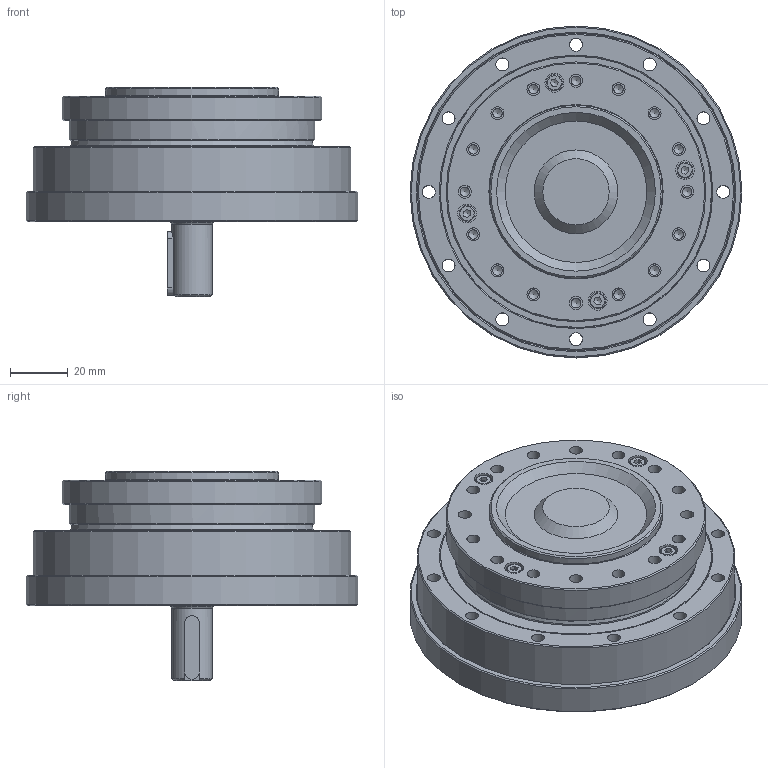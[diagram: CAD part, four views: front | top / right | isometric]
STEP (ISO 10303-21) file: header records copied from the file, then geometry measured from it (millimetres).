
FILE_DESCRIPTION(/* description */ (''),/* implementation_level */ '2;1');
FILE_NAME(/* name */ 'S:\TB00F\研發課二組\機密級\97.\X2\540C4EC151714EAB5340\X0\ (機密級)\H11\欣怡\2023專案追蹤\2.型錄\模型\\X2\5B987DB2\X0\3D檔(NEW)\DGH-AJ\DGH-25-XX-AJ.stp',/* time_stamp */ '2024-09-16T14:11:14+08:00',/* author */ ('bb1128.zheng'),/* organization */ (''),/* preprocessor_version */ 'ST-DEVELOPER v15.2',/* originating_system */ 'Autodesk Inventor 2014',/* authorisation */ '');
FILE_SCHEMA (('AUTOMOTIVE_DESIGN { 1 0 10303 214 3 1 1 }'));
Length unit declared in the file: centimetre
Products named in the file (1): DGH-25-XX-AJ
Bounding box: 115 x 115 x 72.5 mm (x, y, z)
Volume: 357574.6 mm3; surface area: 52905.2 mm2
Topology: 1 solids, 22 shells, 465 faces, 1007 edges, 658 vertices
Faces by surface type: plane 171, cylinder 145, cone 130, torus 19
Full cylindrical faces by diameter (mm): 2.459 x8, 3 x8, 3.242 x16, 3.5 x12, 4.134 x1, 4.5 x68, 5.5 x4, 5.7 x4, 6.5 x8, 14 x1, 15 x1, 60 x1, 84 x1, 85 x2, 90 x1, 93.5 x1, 93.6 x1, 94 x1, 110 x3, 115 x1
Entity records: 10159 total; most frequent: DIRECTION 1858, CARTESIAN_POINT 1670, ORIENTED_EDGE 1144, EDGE_LOOP 876, AXIS2_PLACEMENT_3D 872, EDGE_CURVE 572, VERTEX_POINT 514, FACE_BOUND 487
